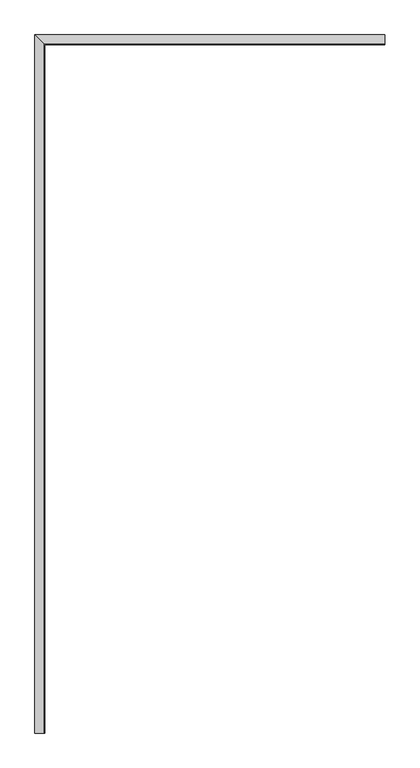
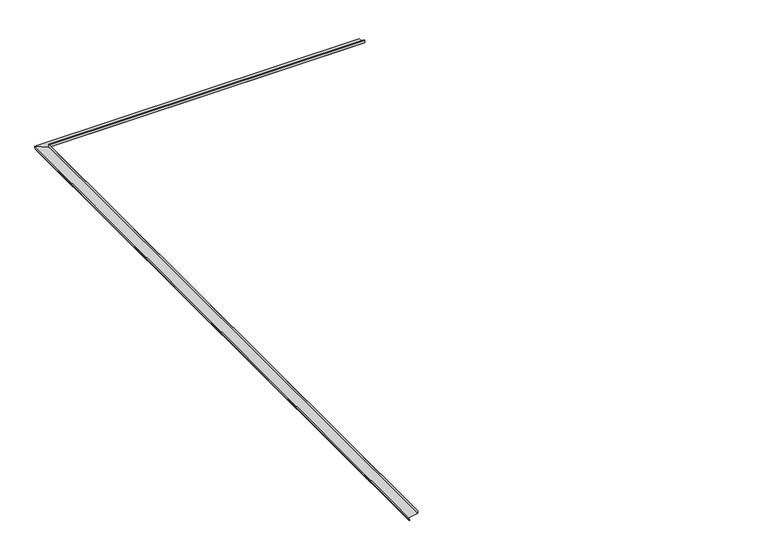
"""IFC4 building model written with IfcOpenShell, lengths in millimetres: proxy geometry, Карниз2 : Карниз."""

import ifcopenshell
import ifcopenshell.guid

model = None  # the IFC model being written
_history = None  # IfcOwnerHistory: only IFC2X3 demands one
_inside = {}  # id of a spatial element -> (the spatial element, [elements in it])
_under = {}  # id of a project, library or spatial element -> (it, [spatial elements below it])
_declared = {}  # id of a project -> (the project, [libraries it declares])
_typed = {}  # id of a type object -> (the type object, [elements of that type])
_made_of = {}  # id of a material, layer set ... -> (it, [elements and type objects made of it])


def new_model(schema):
    """Start an empty IFC model of exactly this schema.

    Asked for "IFC4X3", IfcOpenShell would pick the latest addendum, in which some entities
    have other attributes; the version numbers below select the first issue.
    IFC2X3 requires an IfcOwnerHistory on every rooted entity: one is made here for all.
    """
    global model, _history
    if schema == "IFC4X3":
        model = ifcopenshell.file(schema_version=(4, 3, 0, 0))
    else:
        model = ifcopenshell.file(schema=schema)
    _inside.clear()
    _under.clear()
    _declared.clear()
    _typed.clear()
    _made_of.clear()
    _history = None
    if model.schema == "IFC2X3":
        org = make("IfcOrganization", Name="unknown")
        user = make(
            "IfcPersonAndOrganization",
            ThePerson=make("IfcPerson", FamilyName="unknown"),
            TheOrganization=org,
        )
        app = make(
            "IfcApplication",
            ApplicationDeveloper=org,
            Version="unknown",
            ApplicationFullName="unknown",
            ApplicationIdentifier="unknown",
        )
        _history = make(
            "IfcOwnerHistory",
            OwningUser=user,
            OwningApplication=app,
            ChangeAction="ADDED",
            CreationDate=0,
        )
    return model


def make(cls, **values):
    """One entity of the class cls with the attributes given. An attribute that is None is left unset."""
    return model.create_entity(
        cls, **{name: value for name, value in values.items() if value is not None}
    )


def rooted(cls, **values):
    """An entity with a GlobalId (a new one), such as an element, a storey or a relation."""
    return make(cls, GlobalId=ifcopenshell.guid.new(), OwnerHistory=_history, **values)


def si_unit(unit_type, name, prefix=None):
    """IfcSIUnit, for example si_unit("LENGTHUNIT", "METRE", prefix="MILLI")."""
    return make("IfcSIUnit", UnitType=unit_type, Prefix=prefix, Name=name)


def assignment(units):
    """IfcUnitAssignment: the units of a project."""
    return None if units is None else make("IfcUnitAssignment", Units=units)


def point(xyz):
    """IfcCartesianPoint."""
    return None if xyz is None else make("IfcCartesianPoint", Coordinates=xyz)


def direction(xyz):
    """IfcDirection."""
    return None if xyz is None else make("IfcDirection", DirectionRatios=xyz)


def frame(location, z_axis=None, x_axis=None):
    """IfcAxis2Placement3D, a coordinate frame: its origin and axes. An axis left out is left unset."""
    return make(
        "IfcAxis2Placement3D",
        Location=point(location),
        Axis=direction(z_axis),
        RefDirection=direction(x_axis),
    )


def origin():
    """The frame at (0, 0, 0) with its axes left unset."""
    return frame((0.0, 0.0, 0.0))


def place(relative_to, where):
    """IfcLocalPlacement: puts the frame where relative to a parent placement (None: the world)."""
    return make(
        "IfcLocalPlacement", PlacementRelTo=relative_to, RelativePlacement=where
    )


def context(
    kind, dimensions, precision=None, world=None, true_north=None, identifier=None
):
    """IfcGeometricRepresentationContext, for example the 3D "Model" context."""
    return make(
        "IfcGeometricRepresentationContext",
        ContextIdentifier=identifier,
        ContextType=kind,
        CoordinateSpaceDimension=dimensions,
        Precision=precision,
        WorldCoordinateSystem=world,
        TrueNorth=true_north,
    )


def project(units=None, contexts=None):
    """IfcProject with its units and contexts."""
    return rooted(
        "IfcProject",
        Name="project",
        RepresentationContexts=contexts,
        UnitsInContext=assignment(units),
    )


def spatial(cls, under=None, at=None, **own):
    """A site, building, storey or space (cls), placed at a placement, below another one or the project."""
    s = rooted(cls, ObjectPlacement=at, **own)
    if under is not None:
        _under.setdefault(under.id(), (under, []))[1].append(s)
    return s


def faces_of(points, faces, orient=None, outer=None):
    """IfcFace entities. A face is a list of loops; a loop is a list of indices into points, from 0.

    orient and outer hold one flag for each loop. By default every Orientation is true, the
    first loop of a face is its IfcFaceOuterBound and the others are IfcFaceBound.
    """
    made = []
    for i, loops in enumerate(faces):
        bounds = []
        for j, loop in enumerate(loops):
            is_outer = j == 0 if outer is None else outer[i][j]
            bounds.append(
                make(
                    "IfcFaceOuterBound" if is_outer else "IfcFaceBound",
                    Bound=make("IfcPolyLoop", Polygon=[points[k] for k in loop]),
                    Orientation=True if orient is None else orient[i][j],
                )
            )
        made.append(make("IfcFace", Bounds=bounds))
    return made


def faceted_brep(points, faces, orient=None, outer=None, voids=None):
    """IfcFacetedBrep: a solid bounded by flat faces; with voids (closed shells), ...WithVoids."""
    shared = [point(p) for p in points]
    hull = make("IfcClosedShell", CfsFaces=faces_of(shared, faces, orient, outer))
    if voids is None:
        return make("IfcFacetedBrep", Outer=hull)
    return make(
        "IfcFacetedBrepWithVoids",
        Outer=hull,
        Voids=[
            make(cls, CfsFaces=faces_of(shared, fs, o, b)) for cls, fs, o, b in voids
        ],
    )


def shape(context_of_items, identifier, shape_type, items):
    """IfcShapeRepresentation: the items that make up one representation, for example the "Body"."""
    return make(
        "IfcShapeRepresentation",
        ContextOfItems=context_of_items,
        RepresentationIdentifier=identifier,
        RepresentationType=shape_type,
        Items=items,
    )


def source(mapping_origin, context_of_items, identifier, shape_type, items):
    """IfcRepresentationMap: a shape defined once, which mapped items show again and again."""
    return make(
        "IfcRepresentationMap",
        MappingOrigin=mapping_origin,
        MappedRepresentation=shape(context_of_items, identifier, shape_type, items),
    )


def transform(
    local_origin,
    x_axis=None,
    y_axis=None,
    z_axis=None,
    scale=None,
    scale2=None,
    scale3=None,
    uniform=True,
):
    """IfcCartesianTransformationOperator3D, or its non-uniform kind. x_axis, y_axis, z_axis: its Axis1, 2, 3."""
    if uniform:
        return make(
            "IfcCartesianTransformationOperator3D",
            Axis1=direction(x_axis),
            Axis2=direction(y_axis),
            LocalOrigin=point(local_origin),
            Scale=scale,
            Axis3=direction(z_axis),
        )
    return make(
        "IfcCartesianTransformationOperator3DnonUniform",
        Axis1=direction(x_axis),
        Axis2=direction(y_axis),
        LocalOrigin=point(local_origin),
        Scale=scale,
        Axis3=direction(z_axis),
        Scale2=scale2,
        Scale3=scale3,
    )


def mapped(mapping_source, mapping_target):
    """IfcMappedItem: shows the shape of a source again, moved by a transform."""
    return make(
        "IfcMappedItem", MappingSource=mapping_source, MappingTarget=mapping_target
    )


def made_of(thing, what):
    """Note that an element or type object is made of a material, layer set ...; save() writes the relation."""
    if what is not None:
        _made_of.setdefault(what.id(), (what, []))[1].append(thing)
    return thing


def element(
    cls,
    number,
    at=None,
    inside=None,
    cuts=None,
    type_object=None,
    material=None,
    context=None,
    identifier="Body",
    shape_type=None,
    held_by="IfcProductDefinitionShape",
    body=None,
    shapes=None,
    **own,
):
    """One element of the class cls, such as IfcWall. Its Tag is "e" and its number.

    at: its placement. inside: the storey or other place that contains it. cuts: it is an
    opening in that element (IfcRelVoidsElement). A single representation is given by context,
    identifier, shape_type and body (its items); several are given by shapes. held_by: the class
    of the entity that holds the representations. save() writes the other relations.
    """
    e = rooted(cls, Tag="e%d" % number, ObjectPlacement=at, **own)
    if body is not None:
        shapes = [shape(context, identifier, shape_type, body)]
    if shapes is not None:
        e.Representation = make(held_by, Representations=shapes)
    if inside is not None:
        _inside.setdefault(inside.id(), (inside, []))[1].append(e)
    if cuts is not None:
        rooted(
            "IfcRelVoidsElement", RelatingBuildingElement=cuts, RelatedOpeningElement=e
        )
    if type_object is not None:
        _typed.setdefault(type_object.id(), (type_object, []))[1].append(e)
    return made_of(e, material)


def aggregate(whole, parts):
    """IfcRelAggregates: a whole, such as a stair, and the parts it consists of."""
    return rooted("IfcRelAggregates", RelatingObject=whole, RelatedObjects=parts)


def save(model, path):
    """Write the relations noted so far, then the file.

    IfcRelAggregates (storeys below a building ...), IfcRelContainedInSpatialStructure (elements
    in a storey), IfcRelDefinesByType, IfcRelAssociatesMaterial and IfcRelDeclares: one each for
    every whole, place, type object, material and project.
    """
    for whole, parts in _under.values():
        aggregate(whole, parts)
    for where, things in _inside.values():
        rooted(
            "IfcRelContainedInSpatialStructure",
            RelatedElements=things,
            RelatingStructure=where,
        )
    for kind, things in _typed.values():
        rooted("IfcRelDefinesByType", RelatedObjects=things, RelatingType=kind)
    for what, things in _made_of.values():
        rooted("IfcRelAssociatesMaterial", RelatedObjects=things, RelatingMaterial=what)
    for by, libraries in _declared.values():
        rooted("IfcRelDeclares", RelatingContext=by, RelatedDefinitions=libraries)
    model.write(path)


def generic_models_e70fa52b(model_context):
    return source(origin(), model_context, "Body", "Brep", [
        faceted_brep([(-300.0, 20699.9974866, 144.9877934), (-300.0, 20699.9974866, 114.9877934), (-300.0, 27300.0, 114.9877934), (-300.0, 27300.0, 144.9877934), (-303.0, 20699.9974866, 144.9877934), (2959.9972865, 27300.0, 144.9877934), (2959.9972865, 27303.0, 144.9877934), (-303.0, 27303.0, 144.9877934), (-303.0, 20699.9974866, 117.5050923), (-303.0, 27303.0, 117.5050923), (-394.7848515, 20699.9974866, 101.3209465), (-394.7848515, 27394.7848515, 101.3209465), (-394.7848515, 20699.9974866, 79.5093488), (-394.7848515, 27394.7848515, 79.5093488), (-388.0, 20699.9974866, 72.7244973), (-388.0, 27388.0, 72.7244973), (-388.0, 20699.9974866, 67.7244973), (-388.0, 27388.0, 67.7244973), (-385.0, 20699.9974866, 67.7244973), (2959.9972865, 27388.0, 67.7244973), (2959.9972865, 27385.0, 67.7244973), (-385.0, 27385.0, 67.7244973), (-385.0, 20699.9974866, 72.7244973), (-385.0, 27385.0, 72.7244973), (-391.7848515, 20699.9974866, 79.5093488), (-391.7848515, 27391.7848515, 79.5093488), (-391.7848515, 20699.9974866, 98.8036476), (-391.7848515, 27391.7848515, 98.8036476), (2959.9972865, 27300.0, 114.9877934), (2959.9972865, 27391.7848515, 98.8036476), (2959.9972865, 27391.7848515, 79.5093488), (2959.9972865, 27385.0, 72.7244973), (2959.9972865, 27388.0, 72.7244973), (2959.9972865, 27394.7848515, 79.5093488), (2959.9972865, 27394.7848515, 101.3209465), (2959.9972865, 27303.0, 117.5050923)], [[[0, 1, 2, 3]], [[4, 0, 3, 5, 6, 7]], [[8, 4, 7, 9]], [[10, 8, 9, 11]], [[12, 10, 11, 13]], [[14, 12, 13, 15]], [[16, 14, 15, 17]], [[18, 16, 17, 19, 20, 21]], [[22, 18, 21, 23]], [[24, 22, 23, 25]], [[26, 24, 25, 27]], [[1, 26, 27, 2]], [[1, 0, 4, 8, 10, 12, 14, 16, 18, 22, 24, 26]], [[28, 29, 30, 31, 20, 19, 32, 33, 34, 35, 6, 5]], [[3, 2, 28, 5]], [[9, 7, 6, 35]], [[11, 9, 35, 34]], [[13, 11, 34, 33]], [[15, 13, 33, 32]], [[17, 15, 32, 19]], [[23, 21, 20, 31]], [[25, 23, 31, 30]], [[27, 25, 30, 29]], [[2, 27, 29, 28]]]),
    ])


if __name__ == "__main__":
    model = new_model("IFC4")
    model_context = context("Model", 3, world=origin())
    ifc_project = project(units=[si_unit("LENGTHUNIT", "METRE", prefix="MILLI")], contexts=[model_context])
    site = spatial("IfcSite", under=ifc_project)
    building = spatial("IfcBuilding", under=site)
    placement = place(None, origin())
    generic_models_shape = generic_models_e70fa52b(model_context)
    element("IfcBuildingElementProxy", 1, Name="Карниз2 : Карниз", ObjectType="Карниз2 : Карниз", at=placement, inside=building, context=model_context, shape_type="MappedRepresentation", body=[
        mapped(generic_models_shape, transform((0.0, 0.0, 0.0), x_axis=(1.0, 0.0, 0.0), y_axis=(0.0, 1.0, 0.0), z_axis=(0.0, 0.0, 1.0))),
    ])
    save(model, "model.ifc")
